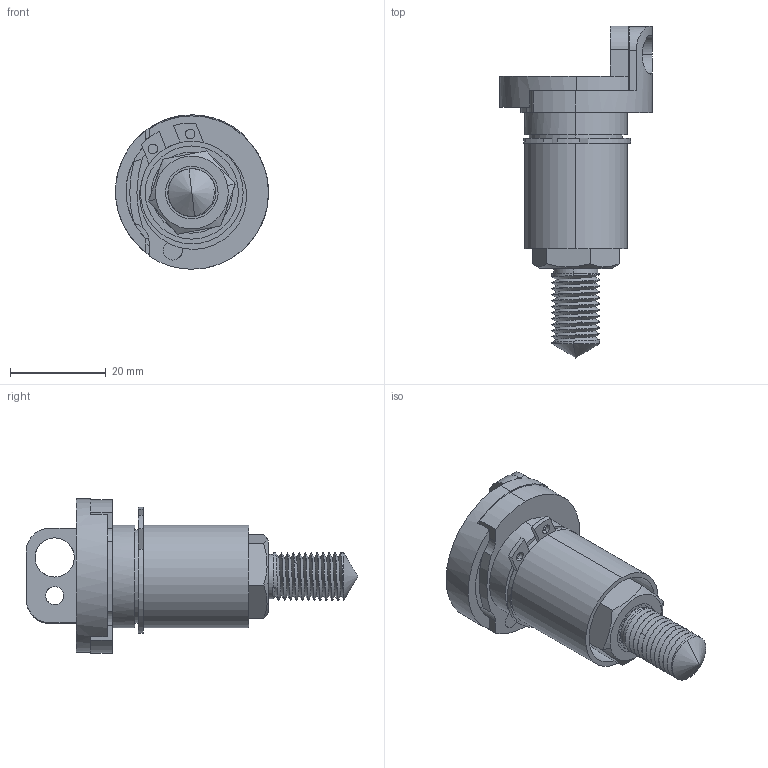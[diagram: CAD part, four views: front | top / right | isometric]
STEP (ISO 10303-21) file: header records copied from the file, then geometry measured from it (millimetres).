
FILE_DESCRIPTION (( 'STEP AP214' ), '1' );
FILE_NAME ('MS707-3.STEP', '2026-06-22T02:26:03', ( '' ), ( '' ), 'SwSTEP 2.0', 'SolidWorks 2020', '' );
FILE_SCHEMA (( 'AUTOMOTIVE_DESIGN' ));
Length unit declared in the file: millimetre
Products named in the file (7): hex nuts, style 1-grades ab gb_GB_FASTENER_NUT_SNAB1 M10-N; 707-3坶褲; 707-3滅阨裔; 8SJ-MS704-2-0040; 20-GB-T-894-1-1986; MS707-3; 7-GB-T-896-1986
Assembly tree (6 placements, depth 2):
  MS707-3
    707-3坶褲
    8SJ-MS704-2-0040
    7-GB-T-896-1986
    20-GB-T-894-1-1986
    707-3滅阨裔
    hex nuts, style 1-grades ab gb_GB_FASTENER_NUT_SNAB1 M10-N
Bounding box: 32.02 x 69.5 x 32.34 mm (x, y, z)
Volume: 15439.2 mm3; surface area: 14319.1 mm2
Topology: 8 solids, 8 shells, 224 faces, 624 edges, 421 vertices
Faces by surface type: cylinder 119, plane 81, cone 16, bspline 8
Entity records: 10690 total; most frequent: CARTESIAN_POINT 4395, ORIENTED_EDGE 1240, DIRECTION 1161, EDGE_CURVE 620, AXIS2_PLACEMENT_3D 446, VERTEX_POINT 421, VECTOR 269, LINE 269
